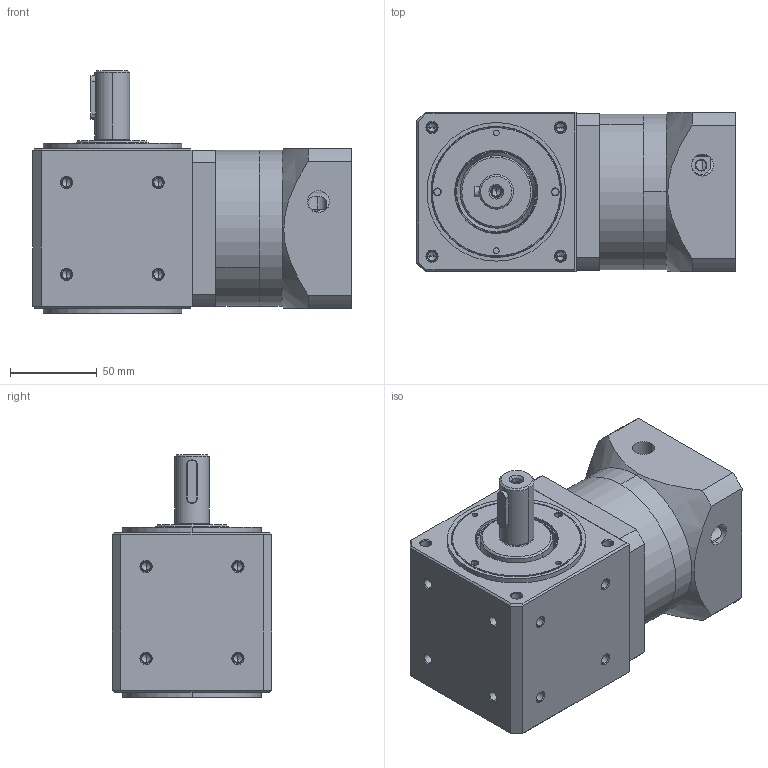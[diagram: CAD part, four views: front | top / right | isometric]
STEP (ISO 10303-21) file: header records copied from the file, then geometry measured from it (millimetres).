
FILE_DESCRIPTION (( 'STEP AP203' ), '1' );
FILE_NAME ('WS90SF-2+GNP90L1-19-70-90-M6.STEP', '2012-11-28T02:40:04', ( 'user' ), ( 'SYNNEX' ), 'SwSTEP 2.0', 'SolidWorks 2008', '' );
FILE_SCHEMA (( 'CONFIG_CONTROL_DESIGN' ));
Length unit declared in the file: millimetre
Products named in the file (1): WS90SF-2+GNP90L1-19-70-90-M6
Bounding box: 184 x 92 x 140 mm (x, y, z)
Volume: 1011450.1 mm3; surface area: 244855.2 mm2
Topology: 14 solids, 14 shells, 974 faces, 2254 edges, 1332 vertices
Faces by surface type: cylinder 401, cone 323, plane 174, torus 72, bspline 4
Entity records: 29407 total; most frequent: CARTESIAN_POINT 6620, DIRECTION 5252, ORIENTED_EDGE 4356, AXIS2_PLACEMENT_3D 2196, EDGE_CURVE 2178, VERTEX_POINT 1332, CIRCLE 1225, EDGE_LOOP 1190
